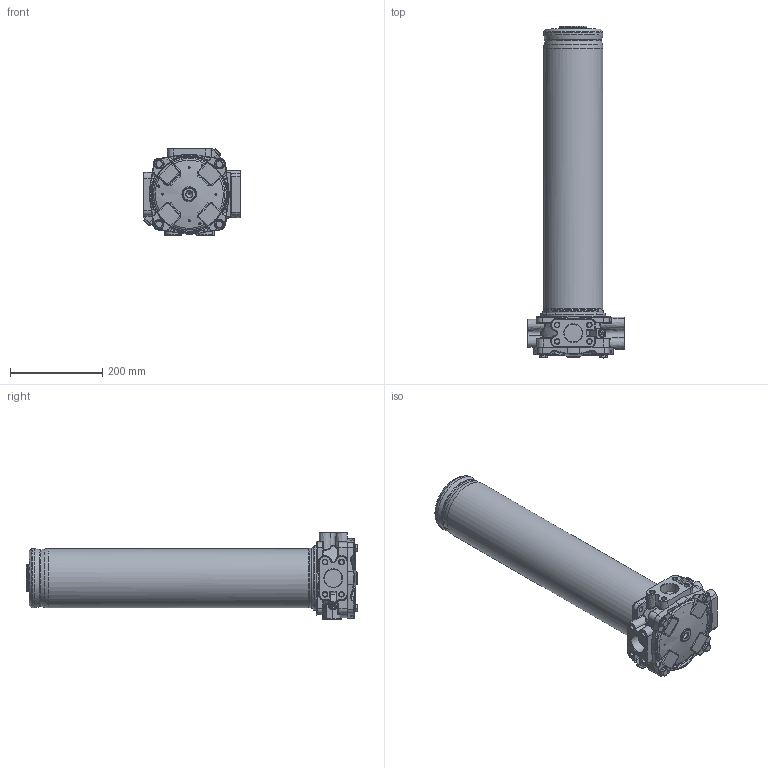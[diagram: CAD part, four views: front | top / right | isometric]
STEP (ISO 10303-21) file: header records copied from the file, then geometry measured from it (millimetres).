
FILE_DESCRIPTION((''),'2;1');
FILE_NAME('U:\Users\i.maeder\w\30370800_E643_4A.stp', '2014-06-18T14:32:41',('User'),('SDRC'),'I-DEAS Master Series 9','UNIX', 'Yes');
FILE_SCHEMA(('AUTOMOTIVE_DESIGN { 1 0 10303 214 1 1 1 1 }'));
Length unit declared in the file: millimetre
Products named in the file (1): 30370800(340400)
Bounding box: 209 x 718.4 x 187.5 mm (x, y, z)
Volume: 10359801.8 mm3; surface area: 436419.4 mm2
Topology: 1 solids, 32 shells, 1495 faces, 3854 edges, 2492 vertices
Faces by surface type: bspline 1495
Entity records: 59956 total; most frequent: CARTESIAN_POINT 39111, ORIENTED_EDGE 7264, EDGE_CURVE 3632, VERTEX_POINT 2245, B_SPLINE_CURVE_WITH_KNOTS 1993, EDGE_LOOP 1559, FACE_OUTER_BOUND 1495, ADVANCED_FACE 1495
